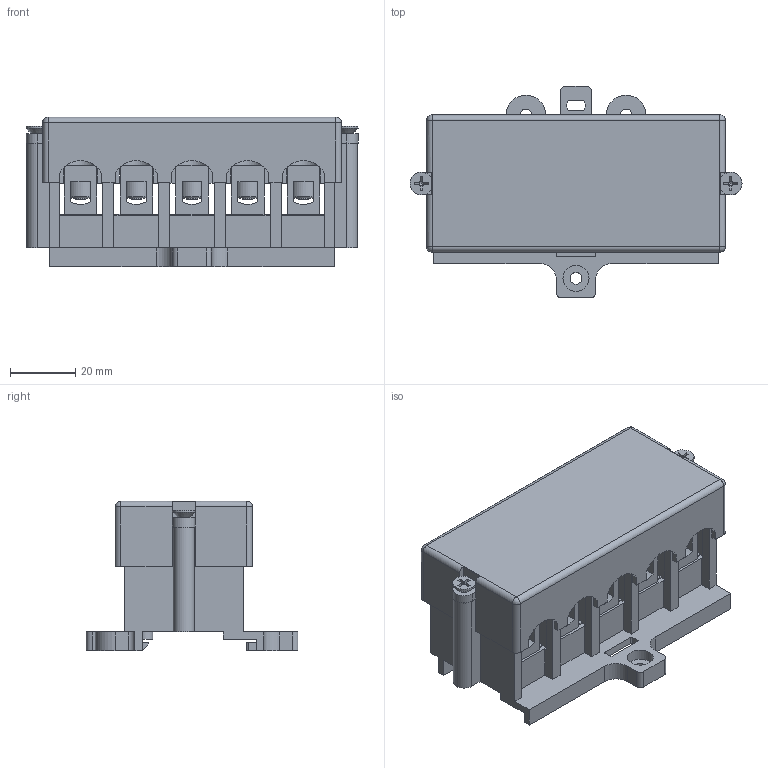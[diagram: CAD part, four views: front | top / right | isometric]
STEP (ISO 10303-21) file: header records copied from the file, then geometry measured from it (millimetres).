
FILE_DESCRIPTION(/* description */ ('Unknown'),/* implementation_level */ '2;1');
FILE_NAME(/* name */ 'dts5x16',/* time_stamp */ '2024-02-12T08:19:00+01:00',/* author */ ('Unknown'),/* organization */ ('Unknown'),/* preprocessor_version */ 'ST-DEVELOPER v18.102',/* originating_system */ 'Solid Edge',/* authorisation */ 'Unknown');
FILE_SCHEMA (('AUTOMOTIVE_DESIGN {1 0 10303 214 3 1 1}'));
Length unit declared in the file: millimetre
Products named in the file (1): dts5x16
Bounding box: 102 x 65.05 x 45.9 mm (x, y, z)
Volume: 69896.7 mm3; surface area: 63578.2 mm2
Topology: 1 solids, 1 shells, 1095 faces, 3012 edges, 1934 vertices
Faces by surface type: plane 792, cylinder 220, cone 39, torus 35, sphere 9
Full cylindrical faces by diameter (mm): 3.1 x5, 3.2 x5, 3.242 x5, 3.4 x5, 3.6 x1, 3.7 x2, 4 x5, 5 x5, 6.647 x10, 7 x5, 8 x6
Entity records: 41405 total; most frequent: CARTESIAN_POINT 6686, ORIENTED_EDGE 5646, DIRECTION 5415, EDGE_CURVE 2823, LINE 1969, VECTOR 1969, VERTEX_POINT 1869, AXIS2_PLACEMENT_3D 1723
